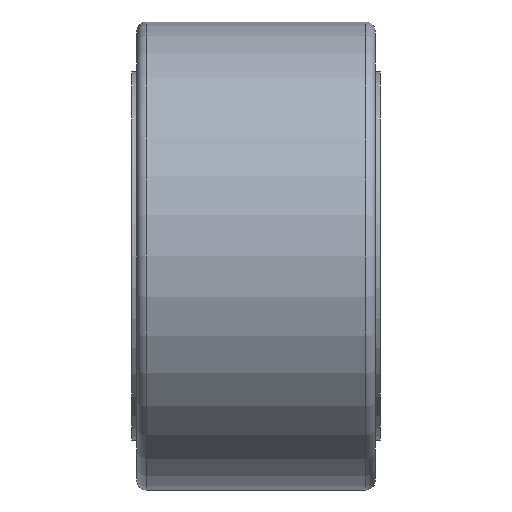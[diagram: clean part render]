
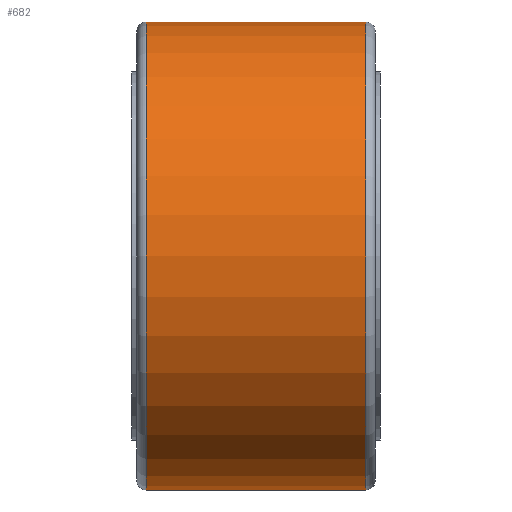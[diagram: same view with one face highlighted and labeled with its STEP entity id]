
A CAD part, front view. The second image highlights one B-rep face of the part: STEP entity #682.
In plain terms, the highlighted cylindrical face has radius 23.5 mm (diameter 47 mm), a full revolution.
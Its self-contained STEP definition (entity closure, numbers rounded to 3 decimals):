
#259=CIRCLE('',#866,23.5);
#261=CIRCLE('',#869,23.5);
#308=FACE_BOUND('',#428,.T.);
#352=FACE_OUTER_BOUND('',#427,.T.);
#427=EDGE_LOOP('',(#605));
#428=EDGE_LOOP('',(#606));
#485=VERTEX_POINT('',#1372);
#487=VERTEX_POINT('',#1377);
#529=EDGE_CURVE('',#485,#485,#259,.T.);
#531=EDGE_CURVE('',#487,#487,#261,.T.);
#605=ORIENTED_EDGE('',*,*,#531,.F.);
#606=ORIENTED_EDGE('',*,*,#529,.F.);
#645=CYLINDRICAL_SURFACE('',#868,23.5);
#682=ADVANCED_FACE('',(#352,#308),#645,.T.);
#866=AXIS2_PLACEMENT_3D('',#1373,#1067,#1068);
#868=AXIS2_PLACEMENT_3D('',#1376,#1071,#1072);
#869=AXIS2_PLACEMENT_3D('',#1378,#1073,#1074);
#1067=DIRECTION('center_axis',(1.,0.,0.));
#1068=DIRECTION('ref_axis',(0.,-1.,0.));
#1071=DIRECTION('center_axis',(1.,0.,0.));
#1072=DIRECTION('ref_axis',(0.,1.,0.));
#1073=DIRECTION('center_axis',(-1.,0.,0.));
#1074=DIRECTION('ref_axis',(0.,-1.,0.));
#1372=CARTESIAN_POINT('',(11.,23.5,0.));
#1373=CARTESIAN_POINT('Origin',(11.,0.,0.));
#1376=CARTESIAN_POINT('Origin',(0.,0.,
0.));
#1377=CARTESIAN_POINT('',(-11.,23.5,0.));
#1378=CARTESIAN_POINT('Origin',(-11.,0.,0.));
